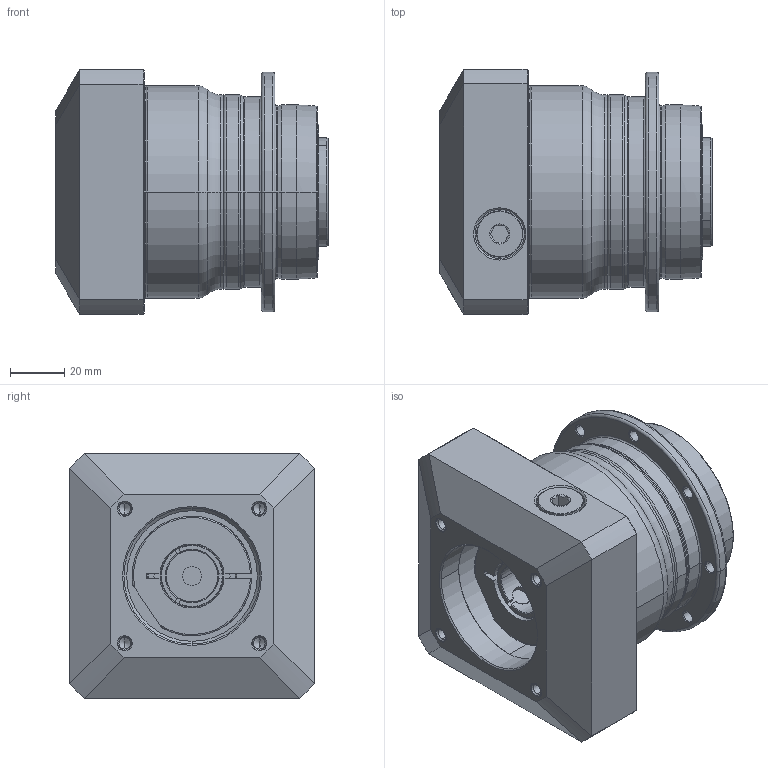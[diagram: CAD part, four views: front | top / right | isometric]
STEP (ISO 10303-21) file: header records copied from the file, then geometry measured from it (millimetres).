
FILE_DESCRIPTION((''),'2;1');
FILE_NAME('AH064_1ST_19-P0409400101_ASM','2016-07-22T',('d00435'),(''),'PRO/ENGINEER BY PARAMETRIC TECHNOLOGY CORPORATION, 2008410','PRO/ENGINEER BY PARAMETRIC TECHNOLOGY CORPORATION, 2008410','');
FILE_SCHEMA(('CONFIG_CONTROL_DESIGN'));
Length unit declared in the file: millimetre
Products named in the file (8): P0255200003; P0359200003; P1318200301; P0409400101; P0503400006; P0912203001; 21711412017; AH064_1ST_19-P0409400101_ASM
Assembly tree (7 placements, depth 2):
  AH064_1ST_19-P0409400101_ASM
    P0255200003
    P0359200003
    P1318200301
    P0409400101
    P0503400006
    P0912203001
    21711412017
Bounding box: 100 x 90 x 90 mm (x, y, z)
Volume: 426362.5 mm3; surface area: 100142.9 mm2
Topology: 8 solids, 30 shells, 562 faces, 1302 edges, 790 vertices
Faces by surface type: cylinder 230, cone 150, plane 110, torus 58, bspline 14
Entity records: 20300 total; most frequent: CARTESIAN_POINT 7183, DIRECTION 2987, ORIENTED_EDGE 2432, AXIS2_PLACEMENT_3D 1268, EDGE_CURVE 1260, VERTEX_POINT 790, CIRCLE 695, EDGE_LOOP 668
